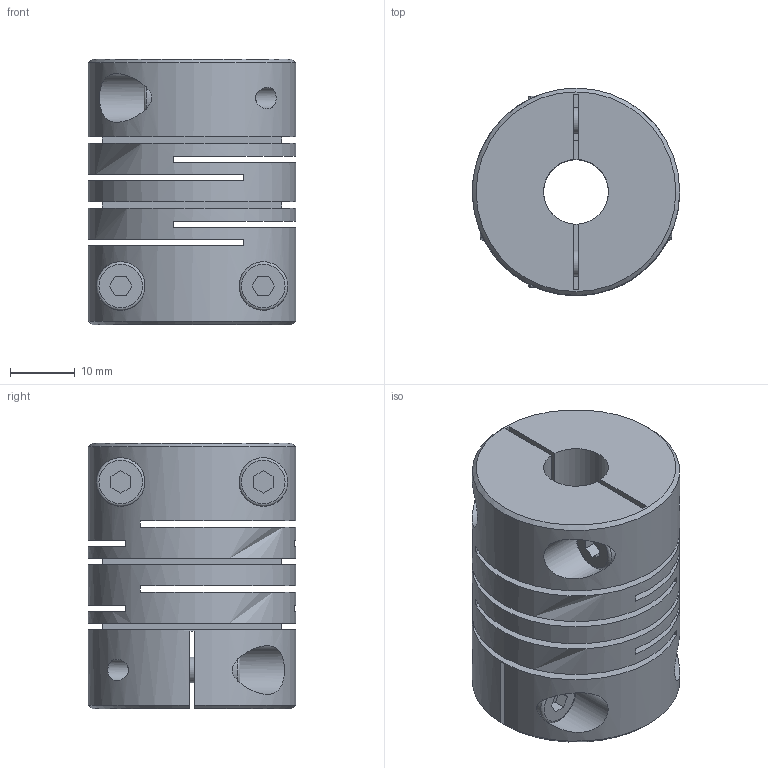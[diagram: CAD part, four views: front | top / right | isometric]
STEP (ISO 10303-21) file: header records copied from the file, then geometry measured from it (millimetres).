
FILE_DESCRIPTION (( 'STEP AP214' ), '1' );
FILE_NAME ('2246-32-B10-10-NI.step', '2022-05-27T09:31:07', ( '' ), ( '' ), 'SwSTEP 2.0', 'SolidWorks 2019', '' );
FILE_SCHEMA (( 'AUTOMOTIVE_DESIGN' ));
Length unit declared in the file: millimetre
Products named in the file (1): 2246-32-B10-10-NI
Bounding box: 32 x 32 x 41 mm (x, y, z)
Volume: 25052.4 mm3; surface area: 14908.4 mm2
Topology: 1 solids, 1 shells, 114 faces, 290 edges, 194 vertices
Faces by surface type: plane 74, cylinder 29, cone 7, torus 4
Full cylindrical faces by diameter (mm): 3.3 x4, 4 x4, 4.5 x4, 10 x6, 32 x1
Entity records: 4166 total; most frequent: CARTESIAN_POINT 1003, DIRECTION 516, ORIENTED_EDGE 454, EDGE_CURVE 227, AXIS2_PLACEMENT_3D 190, EDGE_LOOP 184, VERTEX_POINT 163, FACE_OUTER_BOUND 137
